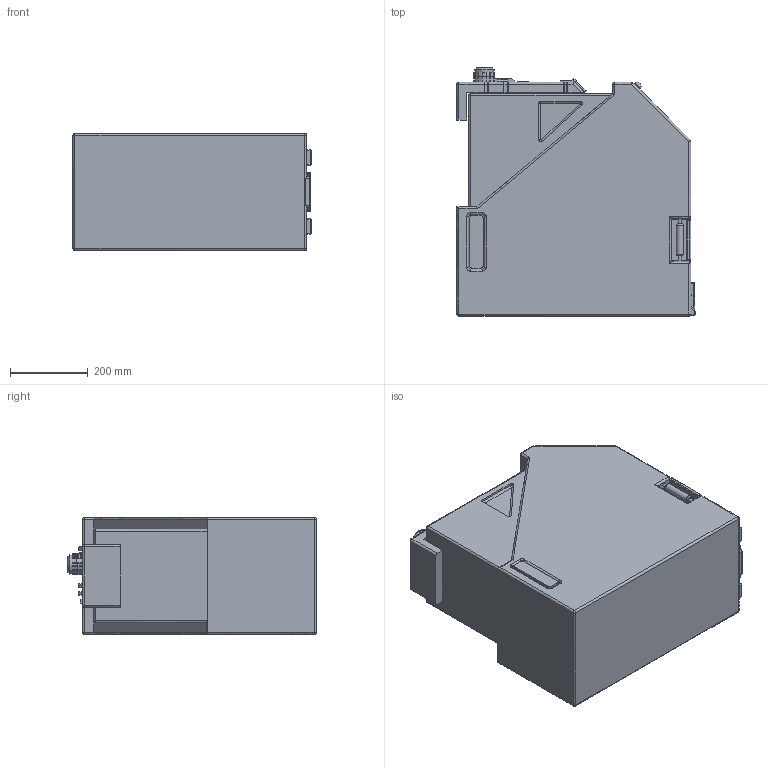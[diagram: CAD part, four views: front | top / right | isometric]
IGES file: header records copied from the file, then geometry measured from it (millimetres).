
Global section: file name: abject sifi 1 v7 (2); native system: unknown; preprocessor: unknown; author: unknown; organization: unknown; date: 20220627.135105; units: centimetre
Bounding box: 611 x 637 x 300 mm (x, y, z)
Volume: 94081715.3 mm3; surface area: 1814133.4 mm2
Topology: 3 solids, 3 shells, 1217 faces, 3095 edges, 1901 vertices
Faces by surface type: bspline 1217
